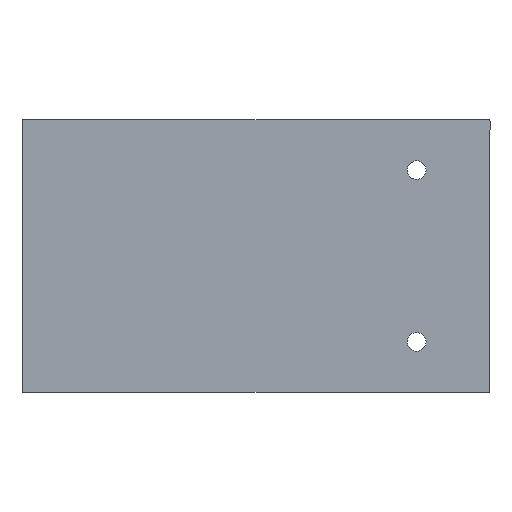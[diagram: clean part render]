
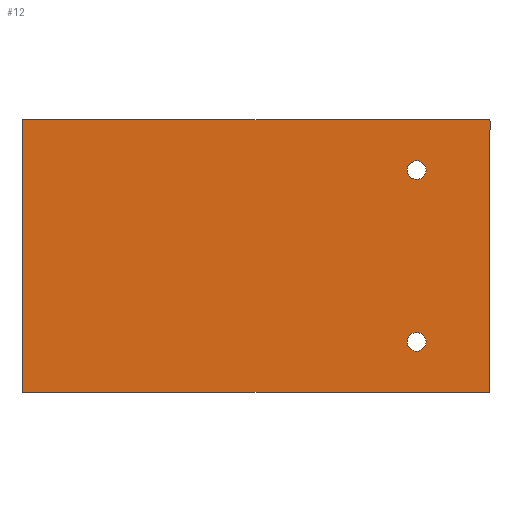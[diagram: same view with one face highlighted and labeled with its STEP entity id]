
A CAD part, left-side view. The second image highlights one B-rep face of the part: STEP entity #12.
In plain terms, the highlighted planar face has unit normal (-1, 0, 0).
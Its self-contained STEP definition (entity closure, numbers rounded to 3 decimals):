
#1 = VERTEX_POINT ( 'NONE', #146 ) ;
#6 = PLANE ( 'NONE',  #327 ) ;
#12 = ADVANCED_FACE ( 'NONE', ( #143, #302, #214 ), #6, .F. ) ;
#17 = VERTEX_POINT ( 'NONE', #78 ) ;
#20 = CARTESIAN_POINT ( 'NONE',  ( 0., 34.8, 17.5 ) ) ;
#24 = DIRECTION ( 'NONE',  ( 0., 1., 0. ) ) ;
#29 = CARTESIAN_POINT ( 'NONE',  ( 0., 0.2, 17.5 ) ) ;
#44 = AXIS2_PLACEMENT_3D ( 'NONE', #351, #186, #315 ) ;
#46 = DIRECTION ( 'NONE',  ( 0., 0., -1. ) ) ;
#50 = AXIS2_PLACEMENT_3D ( 'NONE', #172, #298, #167 ) ;
#51 = CARTESIAN_POINT ( 'NONE',  ( 0., 0.2, -17.5 ) ) ;
#54 = DIRECTION ( 'NONE',  ( 0., 0., -1. ) ) ;
#67 = VERTEX_POINT ( 'NONE', #118 ) ;
#69 = CARTESIAN_POINT ( 'NONE',  ( 0., 0.2, -17.3 ) ) ;
#71 = CARTESIAN_POINT ( 'NONE',  ( 0., 9.4, 9.803 ) ) ;
#73 = EDGE_CURVE ( 'NONE', #370, #389, #116, .T. ) ;
#78 = CARTESIAN_POINT ( 'NONE',  ( 0., 59.8, 17.5 ) ) ;
#83 = CARTESIAN_POINT ( 'NONE',  ( 0., 0., -17.3 ) ) ;
#84 = ORIENTED_EDGE ( 'NONE', *, *, #203, .F. ) ;
#88 = VERTEX_POINT ( 'NONE', #307 ) ;
#106 = VERTEX_POINT ( 'NONE', #71 ) ;
#113 = EDGE_CURVE ( 'NONE', #389, #173, #272, .T. ) ;
#116 = CIRCLE ( 'NONE', #198, 0.2 ) ;
#118 = CARTESIAN_POINT ( 'NONE',  ( 0., 59.8, -17.5 ) ) ;
#121 = CARTESIAN_POINT ( 'NONE',  ( 0., 0.2, -17.5 ) ) ;
#124 = VECTOR ( 'NONE', #24, 1000. ) ;
#131 = CIRCLE ( 'NONE', #425, 0.2 ) ;
#142 = ORIENTED_EDGE ( 'NONE', *, *, #195, .T. ) ;
#143 = FACE_OUTER_BOUND ( 'NONE', #170, .T. ) ;
#146 = CARTESIAN_POINT ( 'NONE',  ( 0., 9.4, -12.203 ) ) ;
#150 = CARTESIAN_POINT ( 'NONE',  ( 0., 0., -17.3 ) ) ;
#152 = AXIS2_PLACEMENT_3D ( 'NONE', #287, #419, #160 ) ;
#153 = LINE ( 'NONE', #20, #282 ) ;
#154 = ORIENTED_EDGE ( 'NONE', *, *, #363, .F. ) ;
#157 = DIRECTION ( 'NONE',  ( 0., -1., 0. ) ) ;
#160 = DIRECTION ( 'NONE',  ( 0., 0., -1. ) ) ;
#166 = ORIENTED_EDGE ( 'NONE', *, *, #407, .T. ) ;
#167 = DIRECTION ( 'NONE',  ( 0., 0., -1. ) ) ;
#168 = ORIENTED_EDGE ( 'NONE', *, *, #295, .T. ) ;
#170 = EDGE_LOOP ( 'NONE', ( #430, #253, #168, #166, #84, #154, #220, #330 ) ) ;
#172 = CARTESIAN_POINT ( 'NONE',  ( 0., 9.4, 11.003 ) ) ;
#173 = VERTEX_POINT ( 'NONE', #83 ) ;
#180 = DIRECTION ( 'NONE',  ( 1., 0., 0. ) ) ;
#186 = DIRECTION ( 'NONE',  ( -1., 0., 0. ) ) ;
#195 = EDGE_CURVE ( 'NONE', #1, #1, #318, .T. ) ;
#197 = ORIENTED_EDGE ( 'NONE', *, *, #431, .T. ) ;
#198 = AXIS2_PLACEMENT_3D ( 'NONE', #341, #180, #46 ) ;
#203 = EDGE_CURVE ( 'NONE', #227, #67, #385, .T. ) ;
#204 = DIRECTION ( 'NONE',  ( -1., 0., 0. ) ) ;
#207 = AXIS2_PLACEMENT_3D ( 'NONE', #226, #204, #292 ) ;
#209 = CARTESIAN_POINT ( 'NONE',  ( 0., 0.2, -17.3 ) ) ;
#214 = FACE_BOUND ( 'NONE', #250, .T. ) ;
#220 = ORIENTED_EDGE ( 'NONE', *, *, #113, .F. ) ;
#226 = CARTESIAN_POINT ( 'NONE',  ( 0., 59.8, -17.3 ) ) ;
#227 = VERTEX_POINT ( 'NONE', #51 ) ;
#232 = CIRCLE ( 'NONE', #44, 0.2 ) ;
#233 = CIRCLE ( 'NONE', #207, 0.2 ) ;
#250 = EDGE_LOOP ( 'NONE', ( #197 ) ) ;
#253 = ORIENTED_EDGE ( 'NONE', *, *, #273, .T. ) ;
#256 = VERTEX_POINT ( 'NONE', #388 ) ;
#258 = VECTOR ( 'NONE', #54, 1000. ) ;
#270 = DIRECTION ( 'NONE',  ( 0., 0., -1. ) ) ;
#272 = LINE ( 'NONE', #150, #366 ) ;
#273 = EDGE_CURVE ( 'NONE', #17, #88, #232, .T. ) ;
#281 = LINE ( 'NONE', #353, #258 ) ;
#282 = VECTOR ( 'NONE', #157, 1000. ) ;
#284 = DIRECTION ( 'NONE',  ( 0., 0., -1. ) ) ;
#286 = EDGE_CURVE ( 'NONE', #17, #370, #153, .T. ) ;
#287 = CARTESIAN_POINT ( 'NONE',  ( 0., 9.4, -11.003 ) ) ;
#292 = DIRECTION ( 'NONE',  ( 0., 0., -1. ) ) ;
#295 = EDGE_CURVE ( 'NONE', #88, #256, #281, .T. ) ;
#296 = DIRECTION ( 'NONE',  ( 1., 0., 0. ) ) ;
#298 = DIRECTION ( 'NONE',  ( 1., 0., 0. ) ) ;
#302 = FACE_BOUND ( 'NONE', #422, .T. ) ;
#307 = CARTESIAN_POINT ( 'NONE',  ( 0., 60., 17.3 ) ) ;
#315 = DIRECTION ( 'NONE',  ( 0., 0., -1. ) ) ;
#318 = CIRCLE ( 'NONE', #152, 1.2 ) ;
#327 = AXIS2_PLACEMENT_3D ( 'NONE', #209, #376, #270 ) ;
#330 = ORIENTED_EDGE ( 'NONE', *, *, #73, .F. ) ;
#341 = CARTESIAN_POINT ( 'NONE',  ( 0., 0.2, 17.3 ) ) ;
#351 = CARTESIAN_POINT ( 'NONE',  ( 0., 59.8, 17.3 ) ) ;
#353 = CARTESIAN_POINT ( 'NONE',  ( 0., 60., 17.5 ) ) ;
#363 = EDGE_CURVE ( 'NONE', #173, #227, #131, .T. ) ;
#366 = VECTOR ( 'NONE', #284, 1000. ) ;
#370 = VERTEX_POINT ( 'NONE', #29 ) ;
#376 = DIRECTION ( 'NONE',  ( 1., 0., 0. ) ) ;
#385 = LINE ( 'NONE', #121, #124 ) ;
#388 = CARTESIAN_POINT ( 'NONE',  ( 0., 60., -17.3 ) ) ;
#389 = VERTEX_POINT ( 'NONE', #428 ) ;
#398 = DIRECTION ( 'NONE',  ( 0., 0., -1. ) ) ;
#407 = EDGE_CURVE ( 'NONE', #256, #67, #233, .T. ) ;
#419 = DIRECTION ( 'NONE',  ( 1., 0., 0. ) ) ;
#422 = EDGE_LOOP ( 'NONE', ( #142 ) ) ;
#425 = AXIS2_PLACEMENT_3D ( 'NONE', #69, #296, #398 ) ;
#428 = CARTESIAN_POINT ( 'NONE',  ( 0., 0., 17.3 ) ) ;
#430 = ORIENTED_EDGE ( 'NONE', *, *, #286, .F. ) ;
#431 = EDGE_CURVE ( 'NONE', #106, #106, #435, .T. ) ;
#435 = CIRCLE ( 'NONE', #50, 1.2 ) ;
